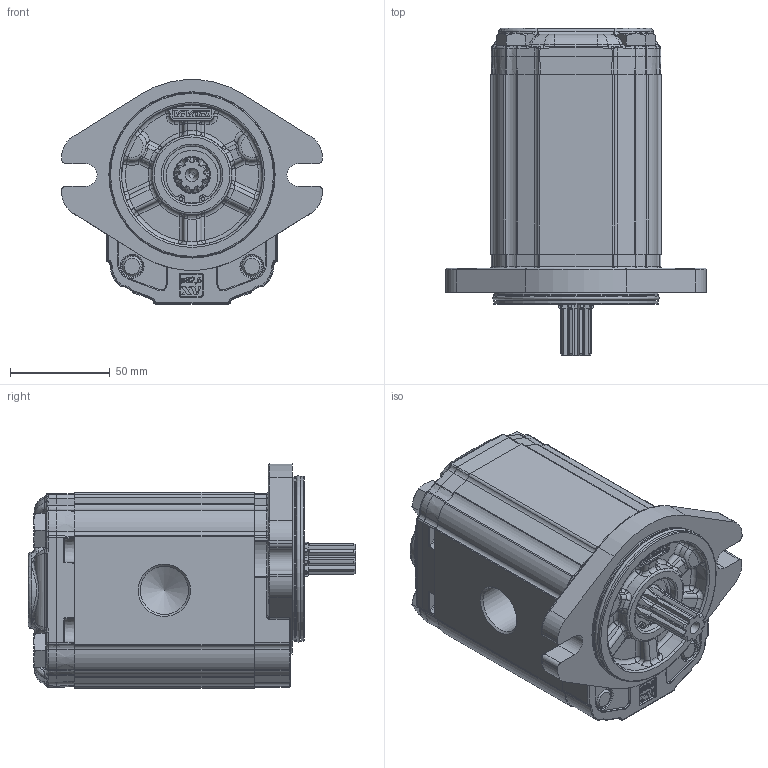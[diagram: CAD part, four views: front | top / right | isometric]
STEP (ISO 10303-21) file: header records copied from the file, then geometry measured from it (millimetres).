
FILE_DESCRIPTION(/* description */ ('Unknown'),/* implementation_level */ '2;1');
FILE_NAME(/* name */ 'X2U5952IDCA',/* time_stamp */ '2021-04-26T09:22:36+02:00',/* author */ ('Unknown'),/* organization */ ('Unknown'),/* preprocessor_version */ 'ST-DEVELOPER v16.7',/* originating_system */ 'Solid Edge',/* authorisation */ 'Unknown');
FILE_SCHEMA (('AUTOMOTIVE_DESIGN {1 0 10303 214 3 1 1}'));
Products named in the file (5): X2U5952IDCA; X2U52; 2I; X2DCH90; XU219-A
Assembly tree (4 placements, depth 2):
  X2U5952IDCA
    X2U52
    2I
    X2DCH90
    XU219-A
Bounding box: 130.38 x 163.7 x 112.3 mm (x, y, z)
Volume: 990746.1 mm3; surface area: 118011.7 mm2
Topology: 4 solids, 5 shells, 2202 faces, 5434 edges, 3297 vertices
Faces by surface type: cylinder 648, plane 590, bspline 537, torus 285, cone 104, sphere 38
Full cylindrical faces by diameter (mm): 2 x2, 10 x4, 10.5 x4, 11 x2, 16 x4, 17.42 x1, 18 x1, 20.595 x1, 23.332 x1, 24.117 x1, 25.834 x1, 28.5 x1, 28.56 x1, 28.57 x1, 28.8 x1, 30.291 x1, 30.4 x1, 79.6 x2, 82.5 x2
Entity records: 92174 total; most frequent: CARTESIAN_POINT 30187, ORIENTED_EDGE 10492, DIRECTION 8845, EDGE_CURVE 5246, AXIS2_PLACEMENT_3D 3377, VERTEX_POINT 3235, FACE_BOUND 2391, EDGE_LOOP 2388
